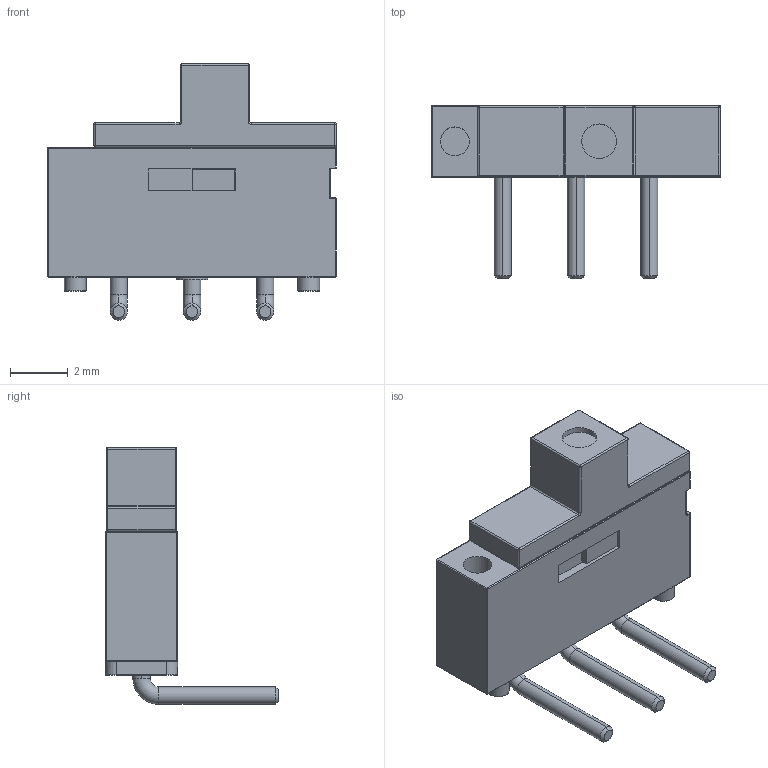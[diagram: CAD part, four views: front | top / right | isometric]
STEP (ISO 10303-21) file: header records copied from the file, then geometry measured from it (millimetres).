
FILE_DESCRIPTION (( 'STEP AP214' ), '1' );
FILE_NAME ('09.10290.01.STEP', '2024-06-07T09:46:41', ( '' ), ( '' ), 'SwSTEP 2.0', 'SolidWorks 2016', '' );
FILE_SCHEMA (( 'AUTOMOTIVE_DESIGN' ));
Length unit declared in the file: millimetre
Products named in the file (1): 09.10290.01
Bounding box: 10 x 6 x 8.9 mm (x, y, z)
Volume: 135 mm3; surface area: 371 mm2
Topology: 2 solids, 2 shells, 199 faces, 464 edges, 248 vertices
Faces by surface type: cylinder 80, plane 63, sphere 24, torus 18, bspline 8, cone 6
Entity records: 6556 total; most frequent: CARTESIAN_POINT 1040, DIRECTION 1010, ORIENTED_EDGE 864, EDGE_CURVE 432, AXIS2_PLACEMENT_3D 394, VERTEX_POINT 248, VECTOR 222, LINE 222
